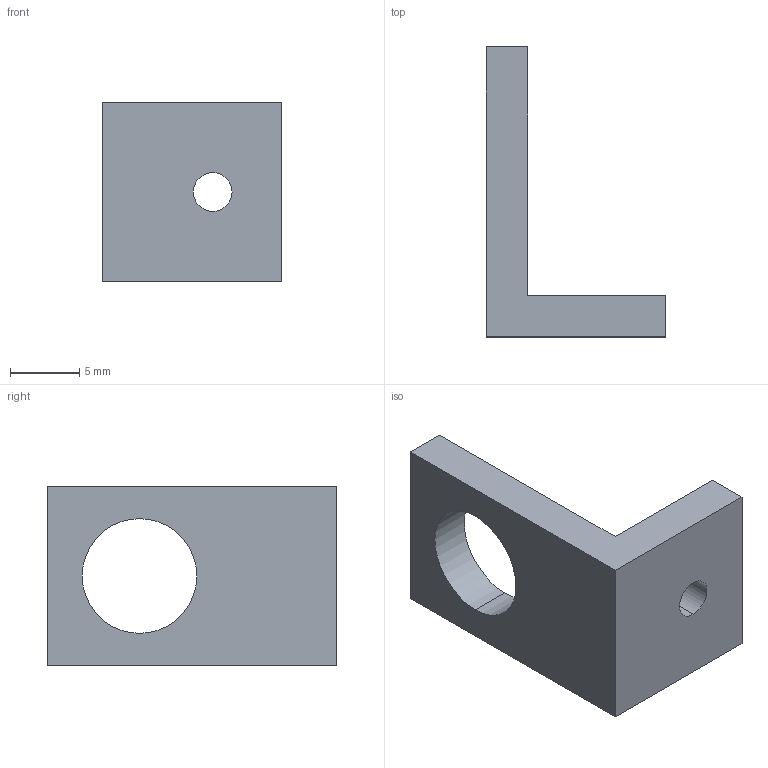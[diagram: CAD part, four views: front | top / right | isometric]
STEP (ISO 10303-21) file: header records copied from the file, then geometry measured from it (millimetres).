
FILE_DESCRIPTION (( 'STEP AP214' ), '1' );
FILE_NAME ('疏え炵苀_S1223 PIN奪假蚾殤_V1.STEP', '2026-06-22T02:24:47', ( '' ), ( '' ), 'SwSTEP 2.0', 'SolidWorks 2022', '' );
FILE_SCHEMA (( 'AUTOMOTIVE_DESIGN' ));
Length unit declared in the file: millimetre
Products named in the file (1): 波片系统_S1223 PIN管安装架_V1
Bounding box: 13 x 21 x 13 mm (x, y, z)
Volume: 1028.2 mm3; surface area: 1054.1 mm2
Topology: 1 solids, 1 shells, 12 faces, 30 edges, 20 vertices
Faces by surface type: plane 8, cylinder 4
Entity records: 404 total; most frequent: DIRECTION 64, CARTESIAN_POINT 63, ORIENTED_EDGE 60, EDGE_CURVE 30, LINE 22, VECTOR 22, AXIS2_PLACEMENT_3D 21, VERTEX_POINT 20
